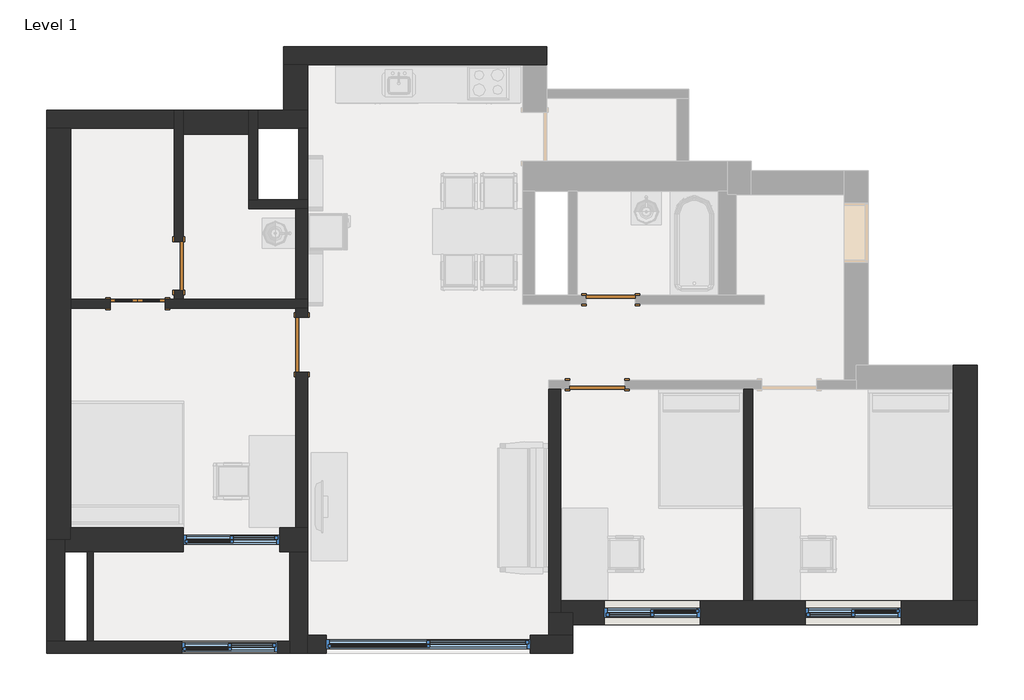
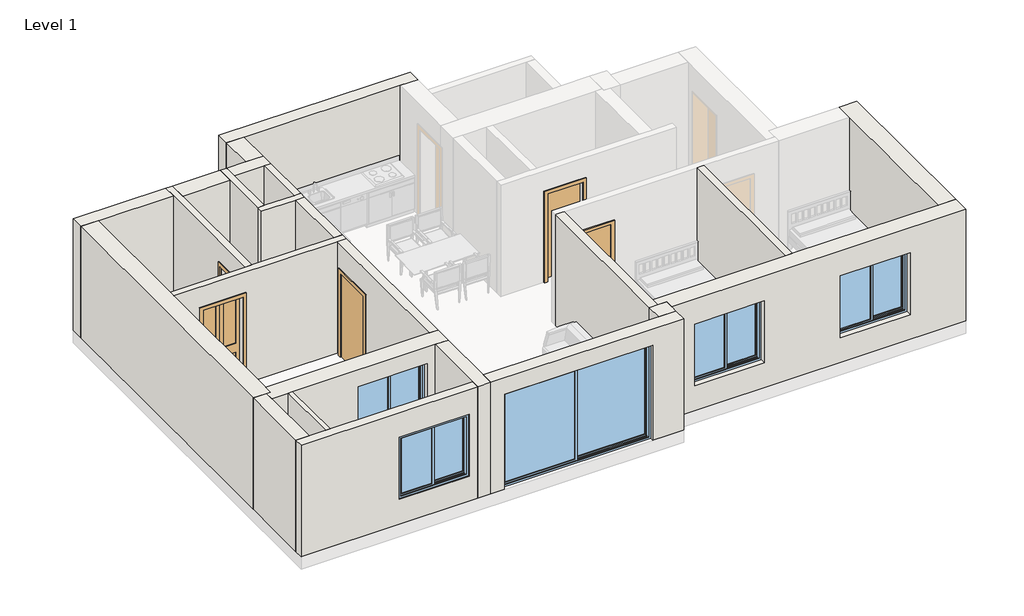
# One storey, part 1 of 2: 24 walls, 5 doors, 5 windows.
"""IFC4 building model written with IfcOpenShell, lengths in millimetres."""

from ifc_helpers import new_model, si_unit, frame, origin, origin_with_axes, place, context, project, spatial, polyline, outline, extrude, faceted_brep, transform, mapped, element, save
from components import door_0915_x_2134mm_b5dea87d, m_single_flush_0813_x_2134mm_08ba7f87, m_single_flush_0813_x_2134mm_06630610, m_single_flush_0915_x_2032mm_d0c19338, m_single_flush_0915_x_2032mm_7267827e, window_edf7300f, window_95983576, window_d353b05b

model = new_model("IFC4")

# Units and contexts
model_context = context("Model", 3, world=origin())
ifc_project = project(units=[si_unit("LENGTHUNIT", "METRE", prefix="MILLI")], contexts=[model_context])

# Site, building, storey
site = spatial("IfcSite", under=ifc_project)
building = spatial("IfcBuilding", under=site)
storey = spatial("IfcBuildingStorey", under=building, Name="Level 1", Elevation=0.0)

# Doors
placement = place(None, origin())
door_0915_x_2134mm_shape = door_0915_x_2134mm_b5dea87d(model_context)
element("IfcDoor", 1, ObjectType="반접이-2 패널 : 0915 x 2134mm", at=placement, inside=storey, context=model_context, shape_type="MappedRepresentation", body=[
    mapped(door_0915_x_2134mm_shape, transform((-5924.1522067, 1358.172032, 0.0), x_axis=(-1.0, 0.0, 0.0), y_axis=(0.0, -1.0, 0.0), z_axis=(0.0, 0.0, 1.0))),
])
m_single_flush_0813_x_2134mm_shape = m_single_flush_0813_x_2134mm_08ba7f87(model_context)
element("IfcDoor", 2, ObjectType="M_Single-Flush : 0813 x 2134mm", at=placement, inside=storey, context=model_context, shape_type="MappedRepresentation", body=[
    mapped(m_single_flush_0813_x_2134mm_shape, transform((-5241.6522067, 1989.672032, 0.0), x_axis=(0.0, -1.0, 0.0), y_axis=(1.0, 0.0, 0.0), z_axis=(0.0, 0.0, 1.0))),
])
m_single_flush_0813_x_2134mm_2_shape = m_single_flush_0813_x_2134mm_06630610(model_context)
element("IfcDoor", 3, ObjectType="M_Single-Flush : 0813 x 2134mm", at=placement, inside=storey, context=model_context, shape_type="MappedRepresentation", body=[
    mapped(m_single_flush_0813_x_2134mm_2_shape, transform((1954.7231342, 1428.172032, 0.0), x_axis=(-1.0, 0.0, 0.0), y_axis=(0.0, -1.0, 0.0), z_axis=(0.0, 0.0, 1.0))),
])
m_single_flush_0915_x_2032mm_shape = m_single_flush_0915_x_2032mm_d0c19338(model_context)
element("IfcDoor", 4, ObjectType="M_Single-Flush : 0915 x 2032mm", at=placement, inside=storey, context=model_context, shape_type="MappedRepresentation", body=[
    mapped(m_single_flush_0915_x_2032mm_shape, transform((1732.1303211, 8.172032, 0.0), x_axis=(-1.0, 0.0, 0.0), y_axis=(0.0, -1.0, 0.0), z_axis=(0.0, 0.0, 1.0))),
])
m_single_flush_0915_x_2032mm_2_shape = m_single_flush_0915_x_2032mm_7267827e(model_context)
element("IfcDoor", 5, ObjectType="M_Single-Flush : 0915 x 2032mm", at=placement, inside=storey, context=model_context, shape_type="MappedRepresentation", body=[
    mapped(m_single_flush_0915_x_2032mm_2_shape, transform((-3191.7768658, 675.672032, 0.0), x_axis=(0.0, 1.0, 0.0), y_axis=(-1.0, 0.0, 0.0), z_axis=(0.0, 0.0, 1.0))),
])

# Walls
element("IfcWall", 6, ObjectType="Generic 100mm Wall", at=placement, inside=storey, context=model_context, shape_type="SweptSolid", body=[
    extrude(outline(polyline([(-6760.5919949, -4256.827968), (-6760.5919949, -2766.827968), (-6660.5919949, -2766.827968), (-6660.5919949, -4256.827968), (-6760.5919949, -4256.827968)])), origin_with_axes(), (0.0, 0.0, 1.0), 2700.0),
])
element("IfcWall", 7, ObjectType="Generic 150mm Wall", at=placement, inside=storey, context=model_context, shape_type="Brep", body=[
    faceted_brep([(-3091.7768658, 3093.172032, 0.0), (-3241.7768658, 3093.172032, 0.0), (-3925.5919949, 3093.172032, 0.0), (-4075.5919949, 3093.172032, 0.0), (-4075.5919949, 3093.172032, 2700.0), (-3925.5919949, 3093.172032, 2700.0), (-3241.7768658, 3093.172032, 2700.0), (-3091.7768658, 3093.172032, 2700.0), (-3091.7768658, 2943.172032, 0.0), (-3091.7768658, 2943.172032, 2700.0), (-3291.7768658, 2943.172032, 2700.0), (-4075.5919949, 2943.172032, 2700.0), (-4075.5919949, 2943.172032, 0.0), (-3291.7768658, 2943.172032, 0.0)], [[[0, 1, 2, 3, 4, 5, 6, 7]], [[8, 9, 10, 11, 12, 13]], [[3, 2, 1, 0, 8, 13, 12]], [[7, 6, 5, 4, 11, 10, 9]], [[0, 7, 9, 8]], [[4, 3, 12, 11]]]),
])
element("IfcWall", 8, ObjectType="Generic 150mm Wall", at=placement, inside=storey, context=model_context, shape_type="Brep", body=[
    faceted_brep([(-3925.5919949, 3093.172032, 0.0), (-3925.5919949, 4283.172032, 0.0), (-3925.5919949, 4583.172032, 0.0), (-3925.5919949, 4583.172032, 2700.0), (-3925.5919949, 4283.172032, 2700.0), (-3925.5919949, 3093.172032, 2700.0), (-4075.5919949, 3093.172032, 0.0), (-4075.5919949, 3093.172032, 2700.0), (-4075.5919949, 4183.172032, 2700.0), (-4075.5919949, 4583.172032, 2700.0), (-4075.5919949, 4583.172032, 0.0), (-4075.5919949, 4183.172032, 0.0)], [[[0, 1, 2, 3, 4, 5]], [[6, 7, 8, 9, 10, 11]], [[2, 1, 0, 6, 11, 10]], [[5, 4, 3, 9, 8, 7]], [[0, 5, 7, 6]], [[3, 2, 10, 9]]]),
])
element("IfcWall", 9, ObjectType="Generic 150mm Wall", at=placement, inside=storey, context=model_context, shape_type="Brep", body=[
    faceted_brep([(-5166.6522067, 4583.172032, 2700.0), (-5166.6522067, 4183.172032, 2700.0), (-5166.6522067, 1433.172032, 2700.0), (-5166.6522067, 1433.172032, 0.0), (-5166.6522067, 1583.172032, 0.0), (-5166.6522067, 1583.172032, 2134.0), (-5166.6522067, 2396.172032, 2134.0), (-5166.6522067, 2396.172032, 0.0), (-5166.6522067, 4183.172032, 0.0), (-5166.6522067, 4583.172032, 0.0), (-5316.6522067, 1433.172032, 2700.0), (-5316.6522067, 4283.172032, 2700.0), (-5316.6522067, 4583.172032, 2700.0), (-5316.6522067, 4583.172032, 0.0), (-5316.6522067, 4283.172032, 0.0), (-5316.6522067, 2396.172032, 0.0), (-5316.6522067, 2396.172032, 2134.0), (-5316.6522067, 1583.172032, 2134.0), (-5316.6522067, 1583.172032, 0.0), (-5316.6522067, 1433.172032, 0.0)], [[[0, 1, 2, 3, 4, 5, 6, 7, 8, 9]], [[10, 11, 12, 13, 14, 15, 16, 17, 18, 19]], [[13, 9, 8, 7, 15, 14]], [[3, 19, 18, 4]], [[2, 1, 0, 12, 11, 10]], [[0, 9, 13, 12]], [[3, 2, 10, 19]], [[17, 5, 4, 18]], [[5, 17, 16, 6]], [[6, 16, 15, 7]]]),
])
element("IfcWall", 10, ObjectType="Generic 150mm Wall", at=placement, inside=storey, context=model_context, shape_type="Brep", body=[
    faceted_brep([(-6381.6522067, 1433.172032, 2134.0), (-6381.6522067, 1433.172032, 0.0), (-7040.5919949, 1433.172032, 0.0), (-7040.5919949, 1433.172032, 2700.0), (-5316.6522067, 1433.172032, 2700.0), (-5166.6522067, 1433.172032, 2700.0), (-3291.7768658, 1433.172032, 2700.0), (-3091.7768658, 1433.172032, 2700.0), (-3091.7768658, 1433.172032, 0.0), (-3291.7768658, 1433.172032, 0.0), (-5166.6522067, 1433.172032, 0.0), (-5316.6522067, 1433.172032, 0.0), (-5466.6522067, 1433.172032, 0.0), (-5466.6522067, 1433.172032, 2134.0), (-7040.5919949, 1283.172032, 0.0), (-6381.6522067, 1283.172032, 0.0), (-6381.6522067, 1283.172032, 2134.0), (-5466.6522067, 1283.172032, 2134.0), (-5466.6522067, 1283.172032, 0.0), (-3291.7768658, 1283.172032, 0.0), (-3091.7768658, 1283.172032, 0.0), (-3091.7768658, 1283.172032, 2700.0), (-3291.7768658, 1283.172032, 2700.0), (-7040.5919949, 1283.172032, 2700.0)], [[[0, 1, 2, 3, 4, 5, 6, 7, 8, 9, 10, 11, 12, 13]], [[14, 15, 16, 17, 18, 19, 20, 21, 22, 23]], [[2, 1, 15, 14]], [[12, 11, 10, 9, 8, 20, 19, 18]], [[7, 6, 5, 4, 3, 23, 22, 21]], [[8, 7, 21, 20]], [[3, 2, 14, 23]], [[16, 15, 1, 0]], [[17, 16, 0, 13]], [[18, 17, 13, 12]]]),
])
element("IfcWall", 11, ObjectType="Generic 150mm Wall", at=placement, inside=storey, context=model_context, shape_type="SweptSolid", body=[
    extrude(outline(polyline([(4321.0630343, -66.827968), (4321.0630343, -3586.827968), (4171.0630343, -3586.827968), (4171.0630343, -66.827968), (4321.0630343, -66.827968)])), origin_with_axes(), (0.0, 0.0, 1.0), 2700.0),
])
element("IfcWall", 12, ObjectType="Generic 150mm Wall", at=placement, inside=storey, context=model_context, shape_type="SweptSolid", body=[
    extrude(outline(polyline([(-3091.7768658, 4283.172032), (-3091.7768658, 3093.172032), (-3241.7768658, 3093.172032), (-3241.7768658, 4283.172032), (-3091.7768658, 4283.172032)])), origin_with_axes(), (0.0, 0.0, 1.0), 2700.0),
])
element("IfcWall", 13, ObjectType="Generic 200mm Wall", at=placement, inside=storey, context=model_context, shape_type="SweptSolid", body=[
    extrude(outline(polyline([(-3291.7768658, 1433.172032), (-3291.7768658, 2943.172032), (-3091.7768658, 2943.172032), (-3091.7768658, 1433.172032), (-3291.7768658, 1433.172032)])), origin_with_axes(), (0.0, 0.0, 1.0), 2700.0),
])
element("IfcWall", 14, ObjectType="Generic 200mm Wall", at=placement, inside=storey, context=model_context, shape_type="Brep", body=[
    faceted_brep([(1124.6303211, -3786.827968, 0.0), (1124.6303211, -3586.827968, 0.0), (1124.6303211, -66.827968, 0.0), (1124.6303211, -66.827968, 2700.0), (1124.6303211, -3586.827968, 2700.0), (1124.6303211, -3786.827968, 2700.0), (924.6303211, -3786.827968, 0.0), (924.6303211, -3786.827968, 2700.0), (924.6303211, -66.827968, 2700.0), (924.6303211, -66.827968, 0.0)], [[[0, 1, 2, 3, 4, 5]], [[6, 7, 8, 9]], [[2, 1, 0, 6, 9]], [[5, 4, 3, 8, 7]], [[0, 5, 7, 6]], [[3, 2, 9, 8]]]),
])
element("IfcWall", 15, ObjectType="Generic 200mm Wall", at=placement, inside=storey, context=model_context, shape_type="Brep", body=[
    faceted_brep([(-3391.7768658, -4256.827968, 0.0), (-6660.5919949, -4256.827968, 0.0), (-6760.5919949, -4256.827968, 0.0), (-7140.5919949, -4256.827968, 0.0), (-7440.5919949, -4256.827968, 0.0), (-7440.5919949, -4256.827968, 2700.0), (-7140.5919949, -4256.827968, 2700.0), (-6760.5919949, -4256.827968, 2700.0), (-6660.5919949, -4256.827968, 2700.0), (-3391.7768658, -4256.827968, 2700.0), (-3590.5919949, -4256.827968, 600.0), (-3590.5919949, -4256.827968, 2100.0), (-5190.5919949, -4256.827968, 2100.0), (-5190.5919949, -4256.827968, 600.0), (-7440.5919949, -4456.827968, 0.0), (-3391.7768658, -4456.827968, 0.0), (-3391.7768658, -4456.827968, 2700.0), (-7440.5919949, -4456.827968, 2700.0), (-3590.5919949, -4456.827968, 2100.0), (-3590.5919949, -4456.827968, 600.0), (-5190.5919949, -4456.827968, 600.0), (-5190.5919949, -4456.827968, 2100.0)], [[[0, 1, 2, 3, 4, 5, 6, 7, 8, 9], [10, 11, 12, 13]], [[14, 15, 16, 17], [18, 19, 20, 21]], [[4, 3, 2, 1, 0, 15, 14]], [[9, 8, 7, 6, 5, 17, 16]], [[0, 9, 16, 15]], [[5, 4, 14, 17]], [[10, 19, 18, 11]], [[12, 21, 20, 13]], [[19, 10, 13, 20]], [[21, 12, 11, 18]]]),
])
element("IfcWall", 16, ObjectType="Generic 200mm Wall", at=placement, inside=storey, context=model_context, shape_type="SweptSolid", body=[
    extrude(outline(polyline([(-2366.827968, 2700.0), (1283.172032, 2700.0), (1283.172032, 0.0), (1133.172032, 0.0), (1133.172032, 2032.0), (218.172032, 2032.0), (218.172032, 0.0), (-2366.827968, 0.0), (-2366.827968, 2700.0)])), frame((-3291.7768658, 0.0, 0.0), z_axis=(1.0, 0.0, 0.0), x_axis=(0.0, 1.0, 0.0)), (0.0, 0.0, 1.0), 200.0),
])
element("IfcWall", 17, ObjectType="Generic 300mm Wall", at=placement, inside=storey, context=model_context, shape_type="Brep", body=[
    faceted_brep([(-7440.5919949, 4283.172032, 0.0), (-7040.5919949, 4283.172032, 0.0), (-5316.6522067, 4283.172032, 0.0), (-5316.6522067, 4283.172032, 2700.0), (-7040.5919949, 4283.172032, 2700.0), (-7440.5919949, 4283.172032, 2700.0), (-7440.5919949, 4583.172032, 0.0), (-7440.5919949, 4583.172032, 2700.0), (-5316.6522067, 4583.172032, 2700.0), (-5316.6522067, 4583.172032, 0.0)], [[[0, 1, 2, 3, 4, 5]], [[6, 7, 8, 9]], [[2, 1, 0, 6, 9]], [[5, 4, 3, 8, 7]], [[0, 5, 7, 6]], [[3, 2, 9, 8]]]),
])
element("IfcWall", 18, ObjectType="Generic 300mm Wall", at=placement, inside=storey, context=model_context, shape_type="Brep", body=[
    faceted_brep([(-3925.5919949, 4283.172032, 0.0), (-3241.7768658, 4283.172032, 0.0), (-3091.7768658, 4283.172032, 0.0), (-3091.7768658, 4283.172032, 2700.0), (-3241.7768658, 4283.172032, 2700.0), (-3925.5919949, 4283.172032, 2700.0), (-3925.5919949, 4583.172032, 0.0), (-3925.5919949, 4583.172032, 2700.0), (-3491.7768658, 4583.172032, 2700.0), (-3091.7768658, 4583.172032, 2700.0), (-3091.7768658, 4583.172032, 0.0), (-3491.7768658, 4583.172032, 0.0)], [[[0, 1, 2, 3, 4, 5]], [[6, 7, 8, 9, 10, 11]], [[2, 1, 0, 6, 11, 10]], [[5, 4, 3, 9, 8, 7]], [[0, 5, 7, 6]], [[3, 2, 10, 9]]]),
])
element("IfcWall", 19, ObjectType="Generic 300mm Wall", at=placement, inside=storey, context=model_context, shape_type="Brep", body=[
    faceted_brep([(-3491.7768658, 5343.172032, 0.0), (-3091.7768658, 5343.172032, 0.0), (488.2231342, 5343.172032, 0.0), (888.2231342, 5343.172032, 0.0), (888.2231342, 5343.172032, 2700.0), (488.2231342, 5343.172032, 2700.0), (-3091.7768658, 5343.172032, 2700.0), (-3491.7768658, 5343.172032, 2700.0), (-3491.7768658, 5643.172032, 0.0), (-3491.7768658, 5643.172032, 2700.0), (888.2231342, 5643.172032, 2700.0), (888.2231342, 5643.172032, 0.0)], [[[0, 1, 2, 3, 4, 5, 6, 7]], [[8, 9, 10, 11]], [[3, 2, 1, 0, 8, 11]], [[7, 6, 5, 4, 10, 9]], [[4, 3, 11, 10]], [[0, 7, 9, 8]]]),
])
element("IfcWall", 20, ObjectType="Generic 300mm Wall", at=placement, inside=storey, context=model_context, shape_type="Brep", body=[
    faceted_brep([(-3391.7768658, -2766.827968, 0.0), (-3391.7768658, -4256.827968, 0.0), (-3391.7768658, -4456.827968, 0.0), (-3391.7768658, -4456.827968, 2700.0), (-3391.7768658, -4256.827968, 2700.0), (-3391.7768658, -2766.827968, 2700.0), (-3091.7768658, -2766.827968, 0.0), (-3091.7768658, -2766.827968, 2700.0), (-3091.7768658, -4156.827968, 2700.0), (-3091.7768658, -4456.827968, 2700.0), (-3091.7768658, -4456.827968, 0.0), (-3091.7768658, -4156.827968, 0.0)], [[[0, 1, 2, 3, 4, 5]], [[6, 7, 8, 9, 10, 11]], [[2, 1, 0, 6, 11, 10]], [[5, 4, 3, 9, 8, 7]], [[3, 2, 10, 9]], [[0, 5, 7, 6]]]),
])
element("IfcWall", 21, ObjectType="Generic 300mm Wall", at=placement, inside=storey, context=model_context, shape_type="Brep", body=[
    faceted_brep([(1324.6303211, -4456.827968, 2700.0), (-3091.7768658, -4456.827968, 2700.0), (-3091.7768658, -4456.827968, 0.0), (-2782.9808369, -4456.827968, 0.0), (-2782.9808369, -4456.827968, 2300.0), (617.0191631, -4456.827968, 2300.0), (617.0191631, -4456.827968, 0.0), (1324.6303211, -4456.827968, 0.0), (-3091.7768658, -4156.827968, 2700.0), (924.6303211, -4156.827968, 2700.0), (1324.6303211, -4156.827968, 2700.0), (1324.6303211, -4156.827968, 0.0), (924.6303211, -4156.827968, 0.0), (617.0191631, -4156.827968, 0.0), (617.0191631, -4156.827968, 2300.0), (-2782.9808369, -4156.827968, 2300.0), (-2782.9808369, -4156.827968, 0.0), (-3091.7768658, -4156.827968, 0.0)], [[[0, 1, 2, 3, 4, 5, 6, 7]], [[8, 9, 10, 11, 12, 13, 14, 15, 16, 17]], [[2, 17, 16, 3]], [[11, 7, 6, 13, 12]], [[1, 0, 10, 9, 8]], [[2, 1, 8, 17]], [[0, 7, 11, 10]], [[5, 14, 13, 6]], [[15, 4, 3, 16]], [[4, 15, 14, 5]]]),
])
element("IfcWall", 22, ObjectType="Generic 300mm Wall", at=placement, inside=storey, context=model_context, shape_type="Brep", body=[
    faceted_brep([(-7440.5919949, -2566.827968, 0.0), (-7440.5919949, -4256.827968, 0.0), (-7440.5919949, -4256.827968, 2700.0), (-7440.5919949, -2566.827968, 2700.0), (-7140.5919949, -2566.827968, 0.0), (-7140.5919949, -2566.827968, 2700.0), (-7140.5919949, -2766.827968, 2700.0), (-7140.5919949, -4256.827968, 2700.0), (-7140.5919949, -4256.827968, 0.0), (-7140.5919949, -2766.827968, 0.0)], [[[0, 1, 2, 3]], [[4, 5, 6, 7, 8, 9]], [[1, 0, 4, 9, 8]], [[3, 2, 7, 6, 5]], [[0, 3, 5, 4]], [[2, 1, 8, 7]]]),
])
element("IfcWall", 23, ObjectType="Generic 400mm Wall", at=placement, inside=storey, context=model_context, shape_type="Brep", body=[
    faceted_brep([(-7440.5919949, 4283.172032, 0.0), (-7440.5919949, -2566.827968, 0.0), (-7440.5919949, -2566.827968, 2700.0), (-7440.5919949, 4283.172032, 2700.0), (-7040.5919949, 4283.172032, 0.0), (-7040.5919949, 4283.172032, 2700.0), (-7040.5919949, 1433.172032, 2700.0), (-7040.5919949, 1283.172032, 2700.0), (-7040.5919949, -2366.827968, 2700.0), (-7040.5919949, -2566.827968, 2700.0), (-7040.5919949, -2566.827968, 0.0), (-7040.5919949, -2366.827968, 0.0), (-7040.5919949, 1283.172032, 0.0), (-7040.5919949, 1433.172032, 0.0), (-7140.5919949, -2566.827968, 0.0), (-7140.5919949, -2566.827968, 2700.0)], [[[0, 1, 2, 3]], [[4, 5, 6, 7, 8, 9, 10, 11, 12, 13]], [[1, 0, 4, 13, 12, 11, 10, 14]], [[2, 1, 14, 10, 9, 15]], [[3, 2, 15, 9, 8, 7, 6, 5]], [[0, 3, 5, 4]]]),
])
element("IfcWall", 24, ObjectType="Generic 400mm Wall", at=placement, inside=storey, context=model_context, shape_type="SweptSolid", body=[
    extrude(outline(polyline([(-4075.5919949, 4183.172032), (-5166.6522067, 4183.172032), (-5166.6522067, 4583.172032), (-4075.5919949, 4583.172032), (-4075.5919949, 4183.172032)])), origin_with_axes(), (0.0, 0.0, 1.0), 2700.0),
])
element("IfcWall", 25, ObjectType="Generic 400mm Wall", at=placement, inside=storey, context=model_context, shape_type="Brep", body=[
    faceted_brep([(924.6303211, -3786.827968, 0.0), (924.6303211, -4156.827968, 0.0), (924.6303211, -4156.827968, 2700.0), (924.6303211, -3786.827968, 2700.0), (1324.6303211, -3786.827968, 0.0), (1324.6303211, -3786.827968, 2700.0), (1324.6303211, -3986.827968, 2700.0), (1324.6303211, -4156.827968, 2700.0), (1324.6303211, -4156.827968, 0.0), (1324.6303211, -3986.827968, 0.0), (1124.6303211, -3786.827968, 0.0), (1124.6303211, -3786.827968, 2700.0)], [[[0, 1, 2, 3]], [[4, 5, 6, 7, 8, 9]], [[1, 0, 10, 4, 9, 8]], [[3, 2, 7, 6, 5, 11]], [[0, 3, 11, 5, 4, 10]], [[2, 1, 8, 7]]]),
])
element("IfcWall", 26, ObjectType="Generic 400mm Wall", at=placement, inside=storey, context=model_context, shape_type="Brep", body=[
    faceted_brep([(1324.6303211, -3986.827968, 0.0), (8059.4080051, -3986.827968, 0.0), (8059.4080051, -3986.827968, 2700.0), (1324.6303211, -3986.827968, 2700.0), (1847.8466777, -3986.827968, 600.0), (1847.8466777, -3986.827968, 2100.0), (3447.8466777, -3986.827968, 2100.0), (3447.8466777, -3986.827968, 600.0), (5190.2355197, -3986.827968, 600.0), (5190.2355197, -3986.827968, 2100.0), (6790.2355197, -3986.827968, 2100.0), (6790.2355197, -3986.827968, 600.0), (8059.4080051, -3586.827968, 0.0), (7659.4080051, -3586.827968, 0.0), (4321.0630343, -3586.827968, 0.0), (4171.0630343, -3586.827968, 0.0), (1124.6303211, -3586.827968, 0.0), (1124.6303211, -3586.827968, 2700.0), (4171.0630343, -3586.827968, 2700.0), (4321.0630343, -3586.827968, 2700.0), (7659.4080051, -3586.827968, 2700.0), (8059.4080051, -3586.827968, 2700.0), (1847.8466777, -3586.827968, 2100.0), (1847.8466777, -3586.827968, 600.0), (3447.8466777, -3586.827968, 600.0), (3447.8466777, -3586.827968, 2100.0), (5190.2355197, -3586.827968, 2100.0), (5190.2355197, -3586.827968, 600.0), (6790.2355197, -3586.827968, 600.0), (6790.2355197, -3586.827968, 2100.0), (1324.6303211, -3786.827968, 0.0), (1124.6303211, -3786.827968, 0.0), (1124.6303211, -3786.827968, 2700.0), (1324.6303211, -3786.827968, 2700.0)], [[[0, 1, 2, 3], [4, 5, 6, 7], [8, 9, 10, 11]], [[12, 13, 14, 15, 16, 17, 18, 19, 20, 21], [22, 23, 24, 25], [26, 27, 28, 29]], [[1, 0, 30, 31, 16, 15, 14, 13, 12]], [[3, 2, 21, 20, 19, 18, 17, 32, 33]], [[0, 3, 33, 30]], [[33, 32, 31, 30]], [[17, 16, 31, 32]], [[2, 1, 12, 21]], [[4, 23, 22, 5]], [[6, 25, 24, 7]], [[23, 4, 7, 24]], [[8, 27, 26, 9]], [[28, 11, 10, 29]], [[27, 8, 11, 28]], [[25, 6, 5, 22]], [[29, 10, 9, 26]]]),
])
element("IfcWall", 27, ObjectType="Generic 400mm Wall", at=placement, inside=storey, context=model_context, shape_type="Brep", body=[
    faceted_brep([(7659.4080051, 333.172032, 0.0), (7659.4080051, -66.827968, 0.0), (7659.4080051, -3586.827968, 0.0), (7659.4080051, -3586.827968, 2700.0), (7659.4080051, -66.827968, 2700.0), (7659.4080051, 333.172032, 2700.0), (8059.4080051, 333.172032, 0.0), (8059.4080051, 333.172032, 2700.0), (8059.4080051, -3586.827968, 2700.0), (8059.4080051, -3586.827968, 0.0)], [[[0, 1, 2, 3, 4, 5]], [[6, 7, 8, 9]], [[2, 1, 0, 6, 9]], [[5, 4, 3, 8, 7]], [[3, 2, 9, 8]], [[0, 5, 7, 6]]]),
])
element("IfcWall", 28, ObjectType="Generic 400mm Wall", at=placement, inside=storey, context=model_context, shape_type="Brep", body=[
    faceted_brep([(-3091.7768658, -2766.827968, 2700.0), (-3391.7768658, -2766.827968, 2700.0), (-6660.5919949, -2766.827968, 2700.0), (-6760.5919949, -2766.827968, 2700.0), (-7140.5919949, -2766.827968, 2700.0), (-7140.5919949, -2766.827968, 0.0), (-6760.5919949, -2766.827968, 0.0), (-6660.5919949, -2766.827968, 0.0), (-5160.5919949, -2766.827968, 0.0), (-5160.5919949, -2766.827968, 2300.0), (-3560.5919949, -2766.827968, 2300.0), (-3560.5919949, -2766.827968, 0.0), (-3391.7768658, -2766.827968, 0.0), (-3091.7768658, -2766.827968, 0.0), (-7040.5919949, -2366.827968, 2700.0), (-3291.7768658, -2366.827968, 2700.0), (-3091.7768658, -2366.827968, 2700.0), (-3091.7768658, -2366.827968, 0.0), (-3291.7768658, -2366.827968, 0.0), (-3560.5919949, -2366.827968, 0.0), (-3560.5919949, -2366.827968, 2300.0), (-5160.5919949, -2366.827968, 2300.0), (-5160.5919949, -2366.827968, 0.0), (-7040.5919949, -2366.827968, 0.0), (-7140.5919949, -2566.827968, 0.0), (-7040.5919949, -2566.827968, 0.0), (-7040.5919949, -2566.827968, 2700.0), (-7140.5919949, -2566.827968, 2700.0)], [[[0, 1, 2, 3, 4, 5, 6, 7, 8, 9, 10, 11, 12, 13]], [[14, 15, 16, 17, 18, 19, 20, 21, 22, 23]], [[17, 13, 12, 11, 19, 18]], [[5, 24, 25, 23, 22, 8, 7, 6]], [[4, 3, 2, 1, 0, 16, 15, 14, 26, 27]], [[0, 13, 17, 16]], [[24, 5, 4, 27]], [[25, 24, 27, 26]], [[14, 23, 25, 26]], [[21, 9, 8, 22]], [[9, 21, 20, 10]], [[10, 20, 19, 11]]]),
])
element("IfcWall", 29, ObjectType="Generic 400mm Wall", at=placement, inside=storey, context=model_context, shape_type="SweptSolid", body=[
    extrude(outline(polyline([(-3091.7768658, 5343.172032), (-3091.7768658, 4583.172032), (-3491.7768658, 4583.172032), (-3491.7768658, 5343.172032), (-3091.7768658, 5343.172032)])), origin_with_axes(), (0.0, 0.0, 1.0), 2700.0),
])

# Windows
window_shape = window_edf7300f(model_context)
element("IfcWindow", 30, ObjectType="두짝미서기창 : 두짝미서기창", at=placement, inside=storey, context=model_context, shape_type="MappedRepresentation", body=[
    mapped(window_shape, transform((-4360.5919949, -2566.827968, -600.0), x_axis=(1.0, 0.0, 0.0), y_axis=(0.0, 1.0, 0.0), z_axis=(0.0, 0.0, 1.0))),
])
window_2_shape = window_95983576(model_context)
element("IfcWindow", 31, ObjectType="두짝미서기창 : 두짝미서기창 2", at=placement, inside=storey, context=model_context, shape_type="MappedRepresentation", body=[
    mapped(window_2_shape, transform((-1082.9808369, -4306.827968, -600.0), x_axis=(-1.0, 0.0, 0.0), y_axis=(0.0, -1.0, 0.0), z_axis=(0.0, 0.0, 1.0))),
])
window_3_shape = window_d353b05b(model_context)
element("IfcWindow", 32, ObjectType="두짝미서기창 : 두짝미서기창 3", at=placement, inside=storey, context=model_context, shape_type="MappedRepresentation", body=[
    mapped(window_3_shape, transform((-4390.5919949, -4356.827968, 0.0), x_axis=(-1.0, 0.0, 0.0), y_axis=(0.0, -1.0, 0.0), z_axis=(0.0, 0.0, 1.0))),
])
element("IfcWindow", 33, ObjectType="두짝미서기창 : 두짝미서기창 3", at=placement, inside=storey, context=model_context, shape_type="MappedRepresentation", body=[
    mapped(window_3_shape, transform((2647.8466777, -3786.827968, 0.0), x_axis=(1.0, 0.0, 0.0), y_axis=(0.0, 1.0, 0.0), z_axis=(0.0, 0.0, 1.0))),
])
element("IfcWindow", 34, ObjectType="두짝미서기창 : 두짝미서기창 3", at=placement, inside=storey, context=model_context, shape_type="MappedRepresentation", body=[
    mapped(window_3_shape, transform((5990.2355197, -3786.827968, 0.0), x_axis=(1.0, 0.0, 0.0), y_axis=(0.0, 1.0, 0.0), z_axis=(0.0, 0.0, 1.0))),
])

save(model, "model.ifc")
